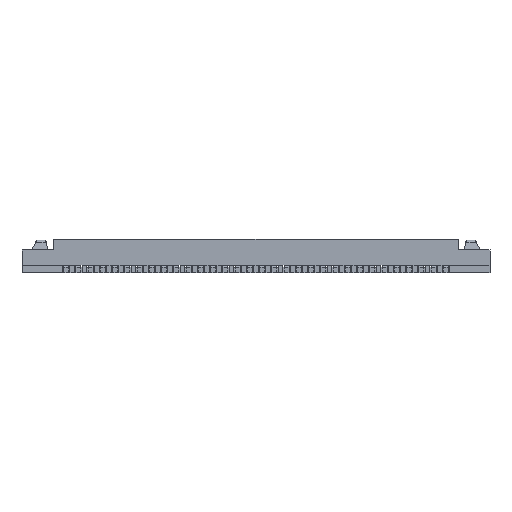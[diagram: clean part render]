
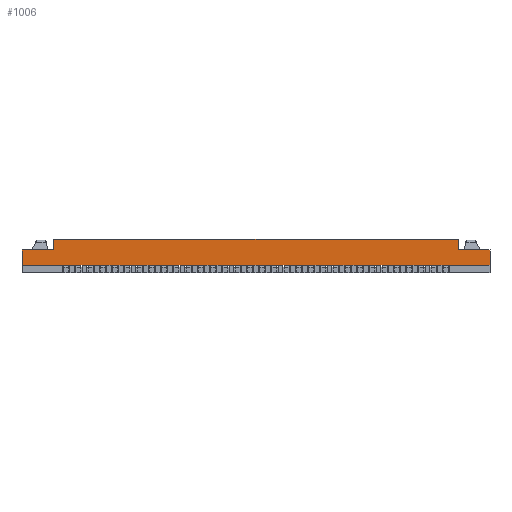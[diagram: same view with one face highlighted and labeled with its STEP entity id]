
A CAD part, front view. The second image highlights one B-rep face of the part: STEP entity #1006.
In plain terms, the highlighted planar face has unit normal (0, -1, 0).
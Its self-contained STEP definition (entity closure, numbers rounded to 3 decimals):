
#399=CARTESIAN_POINT('Vertex',(-8.25,-2.4,0.92)) ;
#402=CARTESIAN_POINT('Line Origine',(-8.25,-2.4,1.135)) ;
#406=CARTESIAN_POINT('Vertex',(-8.25,-2.4,1.35)) ;
#944=CARTESIAN_POINT('Axis2P3D Location',(0.,-2.4,0.3)) ;
#949=CARTESIAN_POINT('Line Origine',(-8.9,-2.4,0.92)) ;
#953=CARTESIAN_POINT('Vertex',(-9.55,-2.4,0.92)) ;
#956=CARTESIAN_POINT('Line Origine',(-9.55,-2.4,0.61)) ;
#960=CARTESIAN_POINT('Vertex',(-9.55,-2.4,0.3)) ;
#963=CARTESIAN_POINT('Line Origine',(0.,-2.4,0.3)) ;
#967=CARTESIAN_POINT('Vertex',(9.55,-2.4,0.3)) ;
#970=CARTESIAN_POINT('Line Origine',(9.55,-2.4,0.61)) ;
#974=CARTESIAN_POINT('Vertex',(9.55,-2.4,0.92)) ;
#977=CARTESIAN_POINT('Line Origine',(8.9,-2.4,0.92)) ;
#981=CARTESIAN_POINT('Vertex',(8.25,-2.4,0.92)) ;
#984=CARTESIAN_POINT('Line Origine',(8.25,-2.4,1.135)) ;
#988=CARTESIAN_POINT('Vertex',(8.25,-2.4,1.35)) ;
#991=CARTESIAN_POINT('Line Origine',(0.,-2.4,1.35)) ;
#403=DIRECTION('Vector Direction',(0.,0.,-1.)) ;
#945=DIRECTION('Axis2P3D Direction',(0.,1.,0.)) ;
#946=DIRECTION('Axis2P3D XDirection',(0.,0.,1.)) ;
#950=DIRECTION('Vector Direction',(1.,0.,0.)) ;
#957=DIRECTION('Vector Direction',(0.,0.,1.)) ;
#964=DIRECTION('Vector Direction',(1.,0.,0.)) ;
#971=DIRECTION('Vector Direction',(0.,0.,1.)) ;
#978=DIRECTION('Vector Direction',(-1.,0.,0.)) ;
#985=DIRECTION('Vector Direction',(0.,0.,-1.)) ;
#992=DIRECTION('Vector Direction',(1.,0.,0.)) ;
#947=AXIS2_PLACEMENT_3D('Plane Axis2P3D',#944,#945,#946) ;
#997=ORIENTED_EDGE('',*,*,#408,.T.) ;
#998=ORIENTED_EDGE('',*,*,#955,.F.) ;
#999=ORIENTED_EDGE('',*,*,#962,.T.) ;
#1000=ORIENTED_EDGE('',*,*,#969,.T.) ;
#1001=ORIENTED_EDGE('',*,*,#976,.F.) ;
#1002=ORIENTED_EDGE('',*,*,#983,.T.) ;
#1003=ORIENTED_EDGE('',*,*,#990,.F.) ;
#1004=ORIENTED_EDGE('',*,*,#995,.F.) ;
#404=VECTOR('Line Direction',#403,1.) ;
#951=VECTOR('Line Direction',#950,1.) ;
#958=VECTOR('Line Direction',#957,1.) ;
#965=VECTOR('Line Direction',#964,1.) ;
#972=VECTOR('Line Direction',#971,1.) ;
#979=VECTOR('Line Direction',#978,1.) ;
#986=VECTOR('Line Direction',#985,1.) ;
#993=VECTOR('Line Direction',#992,1.) ;
#1006=ADVANCED_FACE('\X2\96F64EF651E04F554F53\X0\',(#1005),#948,.F.) ;
#408=EDGE_CURVE('',#407,#400,#405,.T.) ;
#955=EDGE_CURVE('',#954,#400,#952,.T.) ;
#962=EDGE_CURVE('',#954,#961,#959,.F.) ;
#969=EDGE_CURVE('',#961,#968,#966,.T.) ;
#976=EDGE_CURVE('',#975,#968,#973,.F.) ;
#983=EDGE_CURVE('',#975,#982,#980,.T.) ;
#990=EDGE_CURVE('',#989,#982,#987,.T.) ;
#995=EDGE_CURVE('',#407,#989,#994,.T.) ;
#996=EDGE_LOOP('',(#997,#998,#999,#1000,#1001,#1002,#1003,#1004)) ;
#1005=FACE_OUTER_BOUND('',#996,.T.) ;
#405=LINE('Line',#402,#404) ;
#952=LINE('Line',#949,#951) ;
#959=LINE('Line',#956,#958) ;
#966=LINE('Line',#963,#965) ;
#973=LINE('Line',#970,#972) ;
#980=LINE('Line',#977,#979) ;
#987=LINE('Line',#984,#986) ;
#994=LINE('Line',#991,#993) ;
#948=PLANE('Plane',#947) ;
#400=VERTEX_POINT('',#399) ;
#407=VERTEX_POINT('',#406) ;
#954=VERTEX_POINT('',#953) ;
#961=VERTEX_POINT('',#960) ;
#968=VERTEX_POINT('',#967) ;
#975=VERTEX_POINT('',#974) ;
#982=VERTEX_POINT('',#981) ;
#989=VERTEX_POINT('',#988) ;
